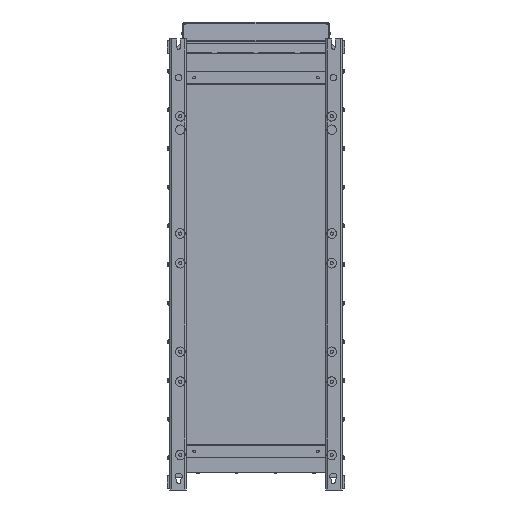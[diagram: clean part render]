
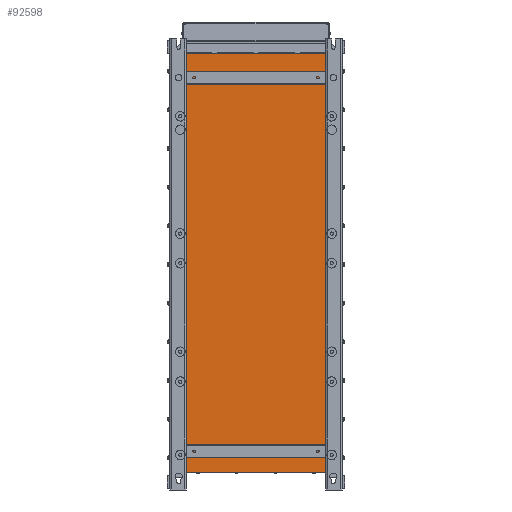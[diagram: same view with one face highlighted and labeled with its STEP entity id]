
A CAD part, front view. The second image highlights one B-rep face of the part: STEP entity #92598.
In plain terms, the highlighted planar face has unit normal (0, -1, 0).
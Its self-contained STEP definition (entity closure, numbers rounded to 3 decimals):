
#1468=FACE_BOUND('',#29610,.T.);
#1469=FACE_BOUND('',#29611,.T.);
#1470=FACE_BOUND('',#29612,.T.);
#1471=FACE_BOUND('',#29613,.T.);
#1472=FACE_BOUND('',#29614,.T.);
#1473=FACE_BOUND('',#29615,.T.);
#1474=FACE_BOUND('',#29616,.T.);
#1475=FACE_BOUND('',#29617,.T.);
#1476=FACE_BOUND('',#29618,.T.);
#1477=FACE_BOUND('',#29619,.T.);
#1478=FACE_BOUND('',#29620,.T.);
#1479=FACE_BOUND('',#29621,.T.);
#1480=FACE_BOUND('',#29622,.T.);
#1481=FACE_BOUND('',#29623,.T.);
#1482=FACE_BOUND('',#29624,.T.);
#1483=FACE_BOUND('',#29625,.T.);
#3361=LINE('',#131644,#11591);
#4738=LINE('',#136526,#12968);
#4739=LINE('',#136528,#12969);
#4740=LINE('',#136529,#12970);
#11591=VECTOR('',#106992,10.);
#12968=VECTOR('',#110017,10.);
#12969=VECTOR('',#110018,10.);
#12970=VECTOR('',#110019,10.);
#19879=PLANE('',#98698);
#23756=FACE_OUTER_BOUND('',#29609,.T.);
#29609=EDGE_LOOP('',(#65059,#65060,#65061,#65062));
#29610=EDGE_LOOP('',(#65063));
#29611=EDGE_LOOP('',(#65064));
#29612=EDGE_LOOP('',(#65065));
#29613=EDGE_LOOP('',(#65066));
#29614=EDGE_LOOP('',(#65067));
#29615=EDGE_LOOP('',(#65068));
#29616=EDGE_LOOP('',(#65069));
#29617=EDGE_LOOP('',(#65070));
#29618=EDGE_LOOP('',(#65071));
#29619=EDGE_LOOP('',(#65072));
#29620=EDGE_LOOP('',(#65073));
#29621=EDGE_LOOP('',(#65074));
#29622=EDGE_LOOP('',(#65075));
#29623=EDGE_LOOP('',(#65076));
#29624=EDGE_LOOP('',(#65077));
#29625=EDGE_LOOP('',(#65078));
#36820=CIRCLE('',#98699,4.);
#36821=CIRCLE('',#98700,4.);
#36822=CIRCLE('',#98701,2.5);
#36823=CIRCLE('',#98702,2.5);
#36824=CIRCLE('',#98703,4.);
#36825=CIRCLE('',#98704,4.);
#36826=CIRCLE('',#98705,4.);
#36827=CIRCLE('',#98706,4.);
#36828=CIRCLE('',#98707,4.);
#36829=CIRCLE('',#98708,4.);
#36830=CIRCLE('',#98709,4.);
#36831=CIRCLE('',#98710,4.);
#36832=CIRCLE('',#98711,4.);
#36833=CIRCLE('',#98712,4.);
#36834=CIRCLE('',#98713,4.);
#36835=CIRCLE('',#98714,4.);
#39517=VERTEX_POINT('',#131641);
#39518=VERTEX_POINT('',#131643);
#41209=VERTEX_POINT('',#136525);
#41210=VERTEX_POINT('',#136527);
#41211=VERTEX_POINT('',#136530);
#41212=VERTEX_POINT('',#136532);
#41213=VERTEX_POINT('',#136534);
#41214=VERTEX_POINT('',#136536);
#41215=VERTEX_POINT('',#136538);
#41216=VERTEX_POINT('',#136540);
#41217=VERTEX_POINT('',#136542);
#41218=VERTEX_POINT('',#136544);
#41219=VERTEX_POINT('',#136546);
#41220=VERTEX_POINT('',#136548);
#41221=VERTEX_POINT('',#136550);
#41222=VERTEX_POINT('',#136552);
#41223=VERTEX_POINT('',#136554);
#41224=VERTEX_POINT('',#136556);
#41225=VERTEX_POINT('',#136558);
#41226=VERTEX_POINT('',#136560);
#48422=EDGE_CURVE('',#39517,#39518,#3361,.T.);
#50391=EDGE_CURVE('',#41209,#39517,#4738,.T.);
#50392=EDGE_CURVE('',#41209,#41210,#4739,.T.);
#50393=EDGE_CURVE('',#39518,#41210,#4740,.T.);
#50394=EDGE_CURVE('',#41211,#41211,#36820,.T.);
#50395=EDGE_CURVE('',#41212,#41212,#36821,.T.);
#50396=EDGE_CURVE('',#41213,#41213,#36822,.T.);
#50397=EDGE_CURVE('',#41214,#41214,#36823,.T.);
#50398=EDGE_CURVE('',#41215,#41215,#36824,.T.);
#50399=EDGE_CURVE('',#41216,#41216,#36825,.T.);
#50400=EDGE_CURVE('',#41217,#41217,#36826,.T.);
#50401=EDGE_CURVE('',#41218,#41218,#36827,.T.);
#50402=EDGE_CURVE('',#41219,#41219,#36828,.T.);
#50403=EDGE_CURVE('',#41220,#41220,#36829,.T.);
#50404=EDGE_CURVE('',#41221,#41221,#36830,.T.);
#50405=EDGE_CURVE('',#41222,#41222,#36831,.T.);
#50406=EDGE_CURVE('',#41223,#41223,#36832,.T.);
#50407=EDGE_CURVE('',#41224,#41224,#36833,.T.);
#50408=EDGE_CURVE('',#41225,#41225,#36834,.T.);
#50409=EDGE_CURVE('',#41226,#41226,#36835,.T.);
#65059=ORIENTED_EDGE('',*,*,#48422,.F.);
#65060=ORIENTED_EDGE('',*,*,#50391,.F.);
#65061=ORIENTED_EDGE('',*,*,#50392,.T.);
#65062=ORIENTED_EDGE('',*,*,#50393,.F.);
#65063=ORIENTED_EDGE('',*,*,#50394,.F.);
#65064=ORIENTED_EDGE('',*,*,#50395,.F.);
#65065=ORIENTED_EDGE('',*,*,#50396,.F.);
#65066=ORIENTED_EDGE('',*,*,#50397,.F.);
#65067=ORIENTED_EDGE('',*,*,#50398,.F.);
#65068=ORIENTED_EDGE('',*,*,#50399,.F.);
#65069=ORIENTED_EDGE('',*,*,#50400,.F.);
#65070=ORIENTED_EDGE('',*,*,#50401,.F.);
#65071=ORIENTED_EDGE('',*,*,#50402,.F.);
#65072=ORIENTED_EDGE('',*,*,#50403,.F.);
#65073=ORIENTED_EDGE('',*,*,#50404,.F.);
#65074=ORIENTED_EDGE('',*,*,#50405,.F.);
#65075=ORIENTED_EDGE('',*,*,#50406,.F.);
#65076=ORIENTED_EDGE('',*,*,#50407,.F.);
#65077=ORIENTED_EDGE('',*,*,#50408,.F.);
#65078=ORIENTED_EDGE('',*,*,#50409,.F.);
#92598=ADVANCED_FACE('',(#23756,#1468,#1469,#1470,#1471,#1472,#1473,#1474,
#1475,#1476,#1477,#1478,#1479,#1480,#1481,#1482,#1483),#19879,.T.);
#98698=AXIS2_PLACEMENT_3D('',#136524,#110015,#110016);
#98699=AXIS2_PLACEMENT_3D('',#136531,#110020,#110021);
#98700=AXIS2_PLACEMENT_3D('',#136533,#110022,#110023);
#98701=AXIS2_PLACEMENT_3D('',#136535,#110024,#110025);
#98702=AXIS2_PLACEMENT_3D('',#136537,#110026,#110027);
#98703=AXIS2_PLACEMENT_3D('',#136539,#110028,#110029);
#98704=AXIS2_PLACEMENT_3D('',#136541,#110030,#110031);
#98705=AXIS2_PLACEMENT_3D('',#136543,#110032,#110033);
#98706=AXIS2_PLACEMENT_3D('',#136545,#110034,#110035);
#98707=AXIS2_PLACEMENT_3D('',#136547,#110036,#110037);
#98708=AXIS2_PLACEMENT_3D('',#136549,#110038,#110039);
#98709=AXIS2_PLACEMENT_3D('',#136551,#110040,#110041);
#98710=AXIS2_PLACEMENT_3D('',#136553,#110042,#110043);
#98711=AXIS2_PLACEMENT_3D('',#136555,#110044,#110045);
#98712=AXIS2_PLACEMENT_3D('',#136557,#110046,#110047);
#98713=AXIS2_PLACEMENT_3D('',#136559,#110048,#110049);
#98714=AXIS2_PLACEMENT_3D('',#136561,#110050,#110051);
#106992=DIRECTION('',(-1.,0.,0.));
#110015=DIRECTION('center_axis',(0.,-1.,0.));
#110016=DIRECTION('ref_axis',(0.,0.,
-1.));
#110017=DIRECTION('',(0.,0.,-1.));
#110018=DIRECTION('',(-1.,0.,0.));
#110019=DIRECTION('',(0.,0.,1.));
#110020=DIRECTION('center_axis',(0.,-1.,0.));
#110021=DIRECTION('ref_axis',(0.,0.,
1.));
#110022=DIRECTION('center_axis',(0.,-1.,0.));
#110023=DIRECTION('ref_axis',(0.,0.,
1.));
#110024=DIRECTION('center_axis',(0.,-1.,0.));
#110025=DIRECTION('ref_axis',(0.,0.,
1.));
#110026=DIRECTION('center_axis',(0.,-1.,0.));
#110027=DIRECTION('ref_axis',(0.,0.,
1.));
#110028=DIRECTION('center_axis',(0.,-1.,0.));
#110029=DIRECTION('ref_axis',(0.,0.,
1.));
#110030=DIRECTION('center_axis',(0.,-1.,0.));
#110031=DIRECTION('ref_axis',(0.,0.,
1.));
#110032=DIRECTION('center_axis',(0.,-1.,0.));
#110033=DIRECTION('ref_axis',(0.,0.,
1.));
#110034=DIRECTION('center_axis',(0.,-1.,0.));
#110035=DIRECTION('ref_axis',(0.,0.,
1.));
#110036=DIRECTION('center_axis',(0.,-1.,0.));
#110037=DIRECTION('ref_axis',(0.,0.,
1.));
#110038=DIRECTION('center_axis',(0.,-1.,0.));
#110039=DIRECTION('ref_axis',(0.,0.,
1.));
#110040=DIRECTION('center_axis',(0.,-1.,0.));
#110041=DIRECTION('ref_axis',(0.,0.,
1.));
#110042=DIRECTION('center_axis',(0.,-1.,0.));
#110043=DIRECTION('ref_axis',(0.,0.,
1.));
#110044=DIRECTION('center_axis',(0.,-1.,0.));
#110045=DIRECTION('ref_axis',(0.,0.,
1.));
#110046=DIRECTION('center_axis',(0.,-1.,0.));
#110047=DIRECTION('ref_axis',(0.,0.,
1.));
#110048=DIRECTION('center_axis',(0.,-1.,0.));
#110049=DIRECTION('ref_axis',(0.,0.,
1.));
#110050=DIRECTION('center_axis',(0.,-1.,0.));
#110051=DIRECTION('ref_axis',(0.,0.,
1.));
#131641=CARTESIAN_POINT('',(269.,0.045,-1296.5));
#131643=CARTESIAN_POINT('',(-269.,0.045,-1296.5));
#131644=CARTESIAN_POINT('',(0.,0.045,-1296.5));
#136524=CARTESIAN_POINT('Origin',(0.,0.045,
3.5));
#136525=CARTESIAN_POINT('',(269.,0.045,3.5));
#136526=CARTESIAN_POINT('',(269.,0.045,-1296.5));
#136527=CARTESIAN_POINT('',(-269.,0.045,3.5));
#136528=CARTESIAN_POINT('',(0.,0.045,3.5));
#136529=CARTESIAN_POINT('',(-269.,0.045,-1296.5));
#136530=CARTESIAN_POINT('',(235.,0.045,-236.));
#136531=CARTESIAN_POINT('Origin',(235.,0.045,-232.));
#136532=CARTESIAN_POINT('',(-235.,0.045,-236.));
#136533=CARTESIAN_POINT('Origin',(-235.,0.045,-232.));
#136534=CARTESIAN_POINT('',(240.,0.045,-72.5));
#136535=CARTESIAN_POINT('Origin',(240.,0.045,-70.));
#136536=CARTESIAN_POINT('',(-240.,0.045,-72.5));
#136537=CARTESIAN_POINT('Origin',(-240.,0.045,-70.));
#136538=CARTESIAN_POINT('',(235.,0.045,-194.));
#136539=CARTESIAN_POINT('Origin',(235.,0.045,-190.));
#136540=CARTESIAN_POINT('',(235.,0.045,-558.));
#136541=CARTESIAN_POINT('Origin',(235.,0.045,-554.));
#136542=CARTESIAN_POINT('',(235.,0.045,-650.));
#136543=CARTESIAN_POINT('Origin',(235.,0.045,-646.));
#136544=CARTESIAN_POINT('',(235.,0.045,-925.));
#136545=CARTESIAN_POINT('Origin',(235.,0.045,-921.));
#136546=CARTESIAN_POINT('',(235.,0.045,-1245.));
#136547=CARTESIAN_POINT('Origin',(235.,0.045,-1241.));
#136548=CARTESIAN_POINT('',(235.,0.045,-1018.));
#136549=CARTESIAN_POINT('Origin',(235.,0.045,-1014.));
#136550=CARTESIAN_POINT('',(-235.,0.045,-1018.));
#136551=CARTESIAN_POINT('Origin',(-235.,0.045,-1014.));
#136552=CARTESIAN_POINT('',(-235.,0.045,-1245.));
#136553=CARTESIAN_POINT('Origin',(-235.,0.045,-1241.));
#136554=CARTESIAN_POINT('',(-235.,0.045,-925.));
#136555=CARTESIAN_POINT('Origin',(-235.,0.045,-921.));
#136556=CARTESIAN_POINT('',(-235.,0.045,-650.));
#136557=CARTESIAN_POINT('Origin',(-235.,0.045,-646.));
#136558=CARTESIAN_POINT('',(-235.,0.045,-558.));
#136559=CARTESIAN_POINT('Origin',(-235.,0.045,-554.));
#136560=CARTESIAN_POINT('',(-235.,0.045,-194.));
#136561=CARTESIAN_POINT('Origin',(-235.,0.045,-190.));
